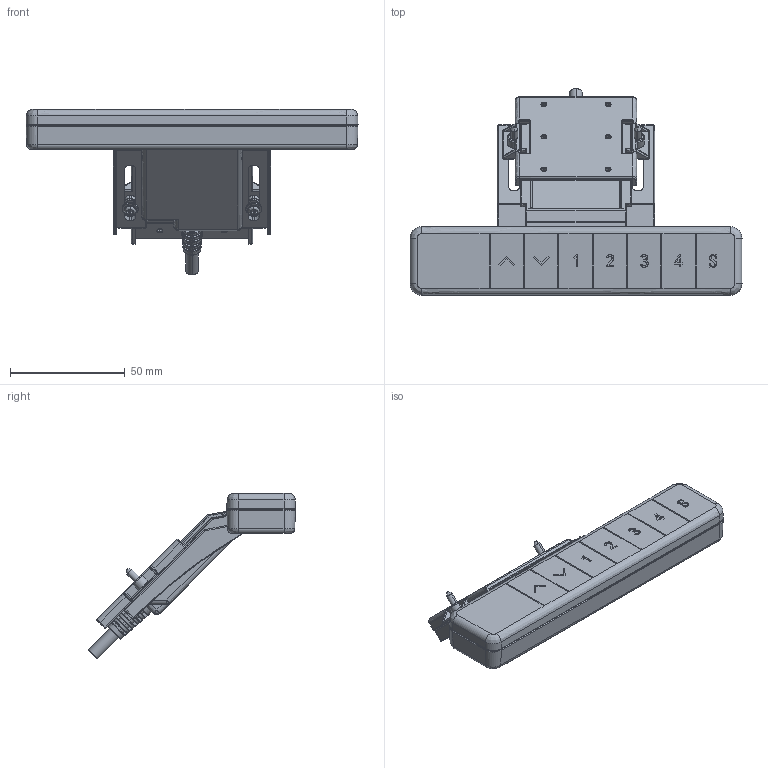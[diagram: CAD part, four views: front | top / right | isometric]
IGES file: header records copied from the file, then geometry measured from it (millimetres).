
Start section: SolidWorks IGES file using NURBS representation for surfaces
Global section: file name: C:\Users\lynn\Desktop\dp07-wuUSB-0920.IGS; native system: SolidWorks 2015; preprocessor: SolidWorks 2015; author: lynn; date: 191121.162137; units: millimetre
Bounding box: 144.98 x 90.34 x 72.37 mm (x, y, z)
Surface area: 53189.5 mm2 (no closed solid volume)
Topology: 0 solids, 0 shells, 1416 faces, 12357 edges, 12225 vertices
Faces by surface type: bspline 1416
